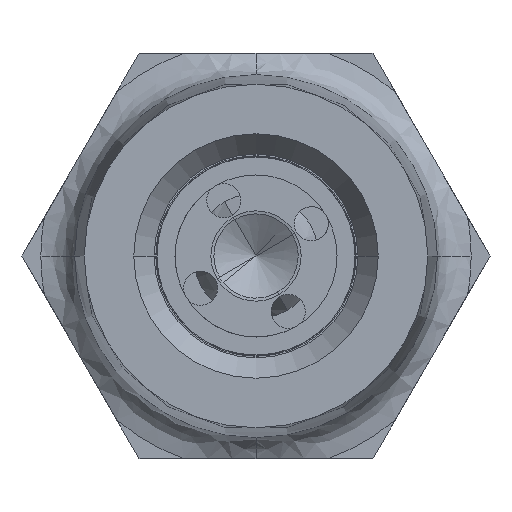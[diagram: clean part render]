
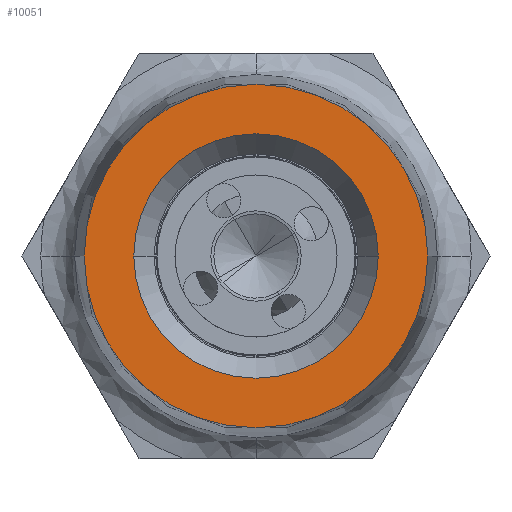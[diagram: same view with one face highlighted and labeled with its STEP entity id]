
A CAD part, left-side view. The second image highlights one B-rep face of the part: STEP entity #10051.
In plain terms, the highlighted planar face has unit normal (-1, 0, 0).
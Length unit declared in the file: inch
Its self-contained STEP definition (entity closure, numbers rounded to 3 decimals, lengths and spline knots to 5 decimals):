
#1856=CARTESIAN_POINT('',(0.0,0.22618,0.0));
#1857=VERTEX_POINT('',#1856);
#1866=CARTESIAN_POINT('',(0.0,-0.22618,0.));
#1867=VERTEX_POINT('',#1866);
#1868=CARTESIAN_POINT('',(0.0,0.0,0.0));
#1869=DIRECTION('',(1.0,0.0,0.0));
#1870=DIRECTION('',(0.0,1.0,0.0));
#1871=AXIS2_PLACEMENT_3D('',#1868,#1869,#1870);
#1872=CIRCLE('',#1871,0.22618);
#1873=EDGE_CURVE('',#1867,#1857,#1872,.T.);
#2384=CARTESIAN_POINT('',(0.0,0.31788,0.0));
#2385=VERTEX_POINT('',#2384);
#2392=CARTESIAN_POINT('',(0.0,-0.31788,0.));
#2393=VERTEX_POINT('',#2392);
#2394=CARTESIAN_POINT('',(0.0,0.0,0.0));
#2395=DIRECTION('',(1.0,0.0,0.0));
#2396=DIRECTION('',(0.0,1.0,0.0));
#2397=AXIS2_PLACEMENT_3D('',#2394,#2395,#2396);
#2398=CIRCLE('',#2397,0.31788);
#2399=EDGE_CURVE('',#2385,#2393,#2398,.T.);
#9469=CARTESIAN_POINT('',(0.0,0.0,0.0));
#9470=DIRECTION('',(1.0,0.0,0.0));
#9471=DIRECTION('',(0.0,1.0,0.0));
#9472=AXIS2_PLACEMENT_3D('',#9469,#9470,#9471);
#9473=CIRCLE('',#9472,0.31788);
#9474=EDGE_CURVE('',#2393,#2385,#9473,.T.);
#10028=CARTESIAN_POINT('',(0.0,0.0,0.0));
#10029=DIRECTION('',(1.0,0.0,0.0));
#10030=DIRECTION('',(0.0,1.0,0.0));
#10031=AXIS2_PLACEMENT_3D('',#10028,#10029,#10030);
#10032=CIRCLE('',#10031,0.22618);
#10033=EDGE_CURVE('',#1857,#1867,#10032,.T.);
#10038=CARTESIAN_POINT('',(0.0,0.27203,0.0));
#10039=DIRECTION('',(-1.0,0.0,0.0));
#10040=DIRECTION('',(0.0,0.0,1.0));
#10041=AXIS2_PLACEMENT_3D('',#10038,#10039,#10040);
#10042=PLANE('',#10041);
#10043=ORIENTED_EDGE('',*,*,#2399,.F.);
#10044=ORIENTED_EDGE('',*,*,#9474,.F.);
#10045=EDGE_LOOP('',(#10043,#10044));
#10046=FACE_OUTER_BOUND('',#10045,.T.);
#10047=ORIENTED_EDGE('',*,*,#10033,.T.);
#10048=ORIENTED_EDGE('',*,*,#1873,.T.);
#10049=EDGE_LOOP('',(#10047,#10048));
#10050=FACE_BOUND('',#10049,.T.);
#10051=ADVANCED_FACE('',(#10046,#10050),#10042,.T.);
